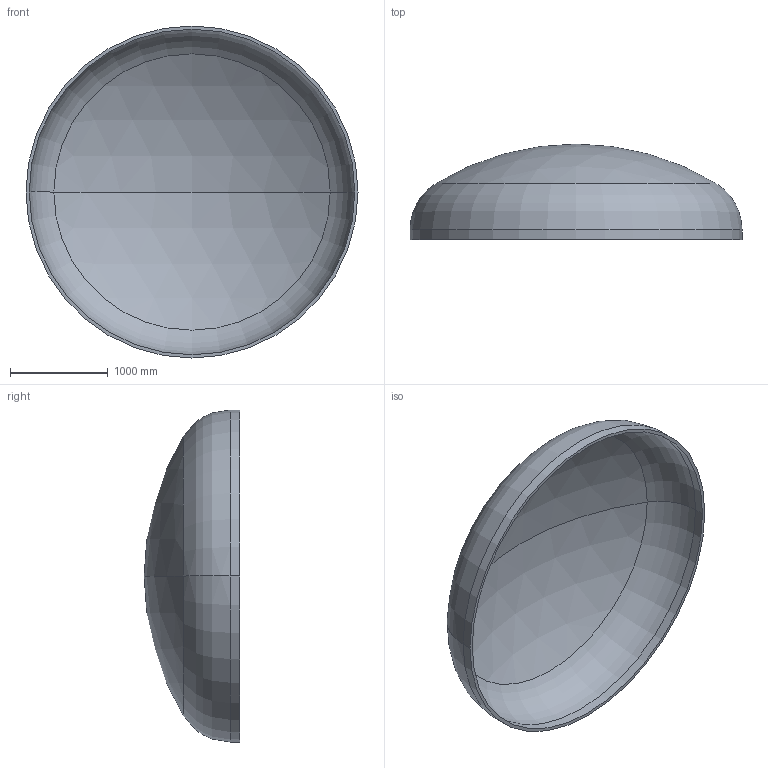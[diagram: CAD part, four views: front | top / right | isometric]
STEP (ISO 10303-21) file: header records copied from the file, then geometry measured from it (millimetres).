
FILE_DESCRIPTION (( 'STEP AP203' ), '1' );
FILE_NAME ('DIN 28013 Korbbogenform_-_Boden DIN 28013 - 3400 x 100 - I - s=33.step', '2016-07-01T19:24:36', ( '' ), ( '' ), 'SwSTEP 2.0', 'SolidWorks 2013', '' );
FILE_SCHEMA (( 'CONFIG_CONTROL_DESIGN' ));
Length unit declared in the file: millimetre
Products named in the file (1): DIN 28013 Korbbogenform_-_Boden DIN 28013 - 3400 x 100 - I - s=33
Bounding box: 3400 x 978.47 x 3400 mm (x, y, z)
Volume: 444789870.4 mm3; surface area: 27308298.2 mm2
Topology: 1 solids, 1 shells, 13 faces, 24 edges, 14 vertices
Faces by surface type: torus 4, cylinder 4, sphere 4, plane 1
Entity records: 407 total; most frequent: DIRECTION 72, CARTESIAN_POINT 52, ORIENTED_EDGE 48, AXIS2_PLACEMENT_3D 34, EDGE_CURVE 24, CIRCLE 20, VERTEX_POINT 14, EDGE_LOOP 14
